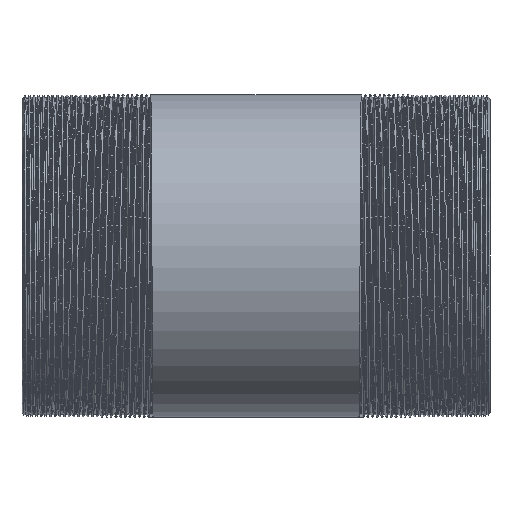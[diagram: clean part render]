
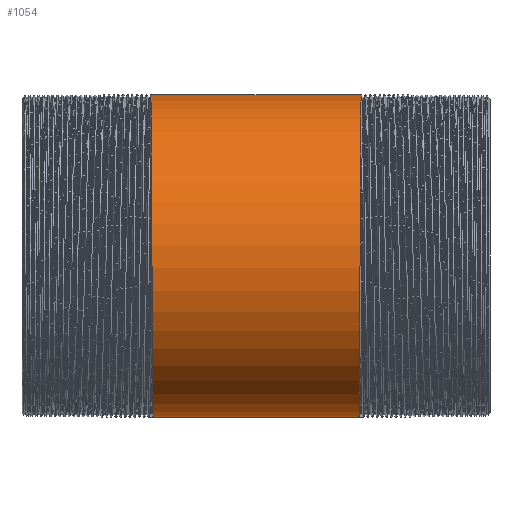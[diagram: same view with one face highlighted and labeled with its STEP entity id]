
A CAD part, front view. The second image highlights one B-rep face of the part: STEP entity #1054.
In plain terms, the highlighted cylindrical face has radius 24.15 mm (diameter 48.3 mm), a partial arc.
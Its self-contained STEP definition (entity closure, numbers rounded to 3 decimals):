
#702 = DIRECTION ( 'NONE',  ( 0., 0., 1. ) ) ;
#794 = VERTEX_POINT ( 'NONE', #18670 ) ;
#834 = EDGE_CURVE ( 'NONE', #19620, #794, #3635, .T. ) ;
#1054 = ADVANCED_FACE ( 'NONE', ( #7039 ), #12436, .T. ) ;
#1092 = CARTESIAN_POINT ( 'NONE',  ( 15.446, -13.943, -24.15 ) ) ;
#1231 = CARTESIAN_POINT ( 'NONE',  ( -149.494, 0., 24.15 ) ) ;
#2164 = CARTESIAN_POINT ( 'NONE',  ( 15.738, 0., 24.15 ) ) ;
#2643 = CARTESIAN_POINT ( 'NONE',  ( 15.679, -13.943, 24.15 ) ) ;
#2988 = CARTESIAN_POINT ( 'NONE',  ( 15.504, -20.915, -12.075 ) ) ;
#3500 = CARTESIAN_POINT ( 'NONE',  ( -15.738, 0., 24.15 ) ) ;
#3635 =( BOUNDED_CURVE ( )  B_SPLINE_CURVE ( 2, ( #11909, #10235, #21865, #9913, #18327, #11572, #3500 ),
 .UNSPECIFIED., .F., .F. ) 
 B_SPLINE_CURVE_WITH_KNOTS ( ( 3, 2, 2, 3 ),
 ( 0., 0.006, 0.011, 0.017 ),
 .UNSPECIFIED. ) 
 CURVE ( )  GEOMETRIC_REPRESENTATION_ITEM ( )  RATIONAL_B_SPLINE_CURVE ( ( 1., 0.866, 1., 0.866, 1., 0.866, 1. ) ) 
 REPRESENTATION_ITEM ( '' )  );
#3903 = VERTEX_POINT ( 'NONE', #10578 ) ;
#4733 = CARTESIAN_POINT ( 'NONE',  ( -15.388, 0., -24.15 ) ) ;
#5559 = ORIENTED_EDGE ( 'NONE', *, *, #19976, .F. ) ;
#6683 = EDGE_CURVE ( 'NONE', #9710, #794, #11189, .T. ) ;
#7039 = FACE_OUTER_BOUND ( 'NONE', #16982, .T. ) ;
#7237 = ORIENTED_EDGE ( 'NONE', *, *, #18445, .T. ) ;
#8603 = ORIENTED_EDGE ( 'NONE', *, *, #6683, .T. ) ;
#8982 =( BOUNDED_CURVE ( )  B_SPLINE_CURVE ( 2, ( #12710, #1092, #2988, #11279, #21575, #2643, #14600 ),
 .UNSPECIFIED., .F., .T. ) 
 B_SPLINE_CURVE_WITH_KNOTS ( ( 3, 2, 2, 3 ),
 ( 0., 0.006, 0.011, 0.017 ),
 .UNSPECIFIED. ) 
 CURVE ( )  GEOMETRIC_REPRESENTATION_ITEM ( )  RATIONAL_B_SPLINE_CURVE ( ( 1., 0.866, 1., 0.866, 1., 0.866, 1. ) ) 
 REPRESENTATION_ITEM ( '' )  );
#9710 = VERTEX_POINT ( 'NONE', #2164 ) ;
#9913 = CARTESIAN_POINT ( 'NONE',  ( -15.563, -27.886, 0. ) ) ;
#10235 = CARTESIAN_POINT ( 'NONE',  ( -15.446, -13.943, -24.15 ) ) ;
#10578 = CARTESIAN_POINT ( 'NONE',  ( 15.388, 0., -24.15 ) ) ;
#11189 = LINE ( 'NONE', #1231, #14010 ) ;
#11279 = CARTESIAN_POINT ( 'NONE',  ( 15.563, -27.886, 0. ) ) ;
#11572 = CARTESIAN_POINT ( 'NONE',  ( -15.679, -13.943, 24.15 ) ) ;
#11909 = CARTESIAN_POINT ( 'NONE',  ( -15.388, 0., -24.15 ) ) ;
#12436 = CYLINDRICAL_SURFACE ( 'NONE', #21404, 24.15 ) ;
#12710 = CARTESIAN_POINT ( 'NONE',  ( 15.388, 0., -24.15 ) ) ;
#13782 = LINE ( 'NONE', #18877, #16007 ) ;
#14010 = VECTOR ( 'NONE', #16163, 1000. ) ;
#14203 = DIRECTION ( 'NONE',  ( -1., 0., 0. ) ) ;
#14600 = CARTESIAN_POINT ( 'NONE',  ( 15.738, 0., 24.15 ) ) ;
#15444 = CARTESIAN_POINT ( 'NONE',  ( -149.494, 0., 0. ) ) ;
#16007 = VECTOR ( 'NONE', #20843, 1000. ) ;
#16163 = DIRECTION ( 'NONE',  ( -1., 0., 0. ) ) ;
#16285 = ORIENTED_EDGE ( 'NONE', *, *, #834, .F. ) ;
#16982 = EDGE_LOOP ( 'NONE', ( #5559, #7237, #8603, #16285 ) ) ;
#18327 = CARTESIAN_POINT ( 'NONE',  ( -15.621, -20.915, 12.075 ) ) ;
#18445 = EDGE_CURVE ( 'NONE', #3903, #9710, #8982, .T. ) ;
#18670 = CARTESIAN_POINT ( 'NONE',  ( -15.738, 0., 24.15 ) ) ;
#18877 = CARTESIAN_POINT ( 'NONE',  ( -149.494, 0., -24.15 ) ) ;
#19620 = VERTEX_POINT ( 'NONE', #4733 ) ;
#19976 = EDGE_CURVE ( 'NONE', #3903, #19620, #13782, .T. ) ;
#20843 = DIRECTION ( 'NONE',  ( -1., 0., 0. ) ) ;
#21404 = AXIS2_PLACEMENT_3D ( 'NONE', #15444, #14203, #702 ) ;
#21575 = CARTESIAN_POINT ( 'NONE',  ( 15.621, -20.915, 12.075 ) ) ;
#21865 = CARTESIAN_POINT ( 'NONE',  ( -15.504, -20.915, -12.075 ) ) ;
